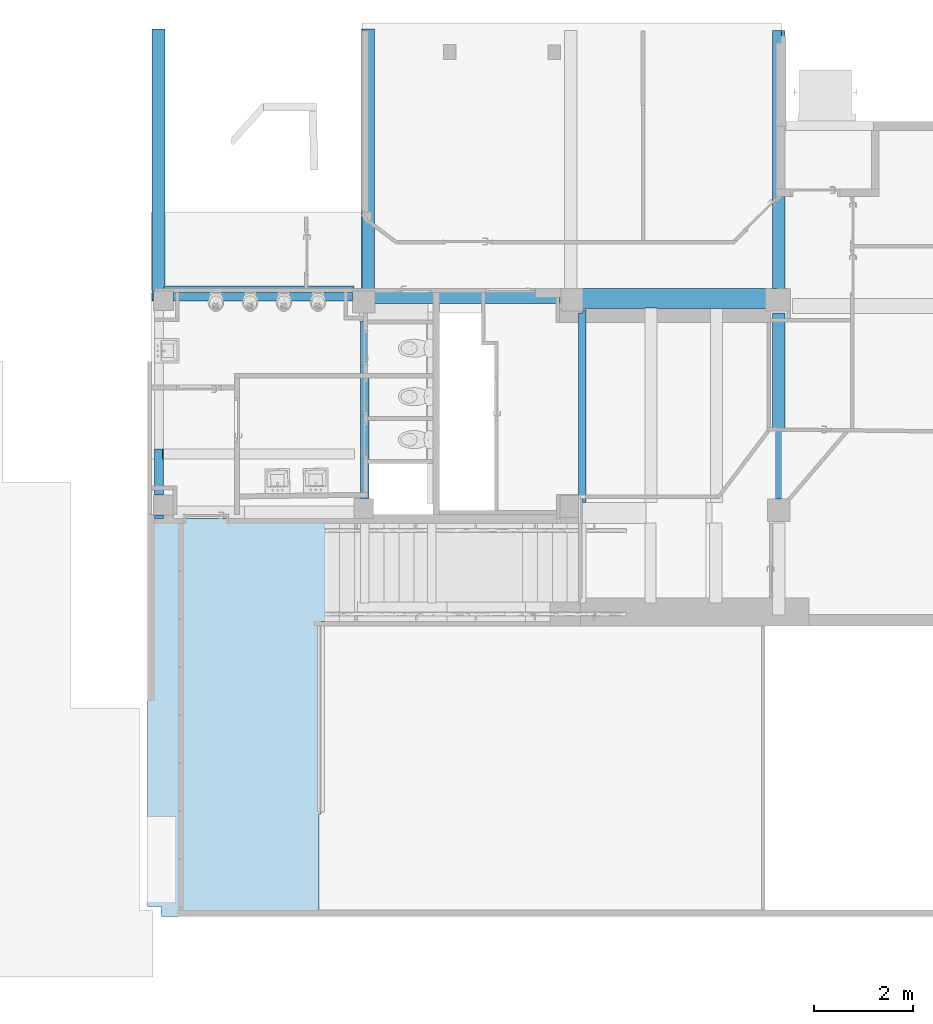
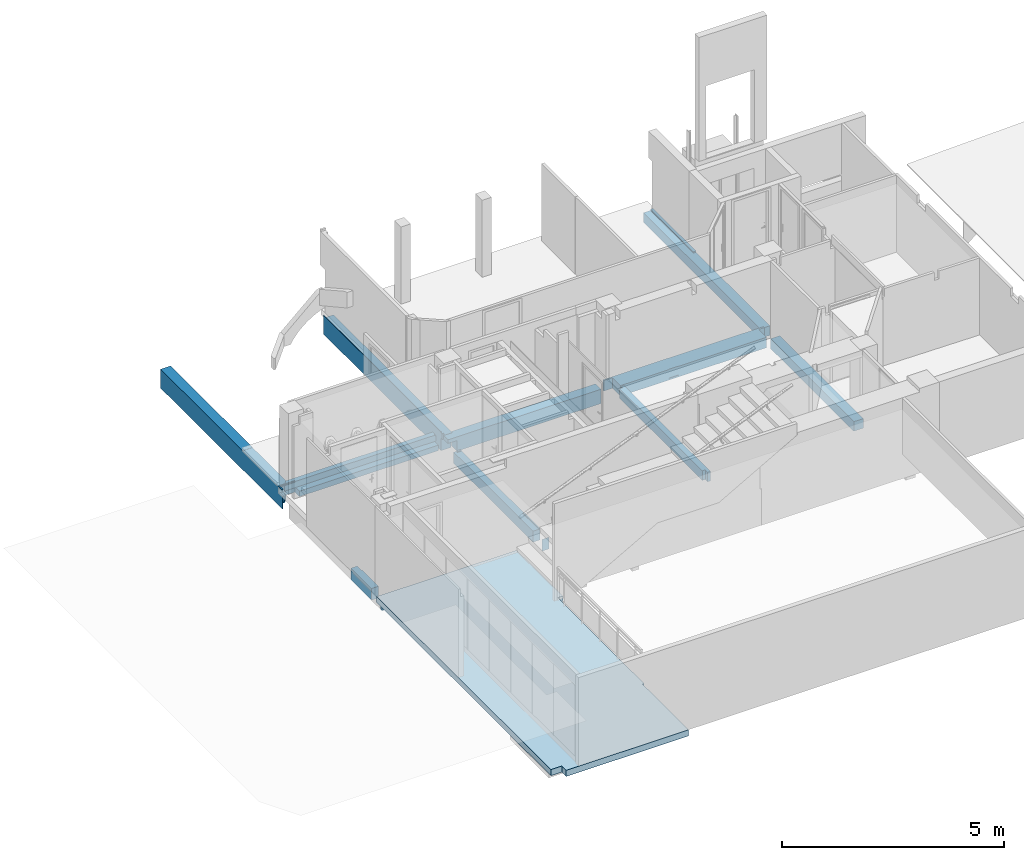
# One storey, part 10 of 32: 9 beams, 1 slab.
"""IFC4 building model written with IfcOpenShell, lengths in metres."""

from ifc_helpers import new_model, entity, si_unit, converted_unit, derived_unit, direction, frame, origin, place, context, subcontext, project, spatial, polygons, source, transform, mapped, material, layer, layer_set, type_object, type_shapes, element, save


model = new_model("IFC4")

# Units and contexts
model_context = context("Model", 3, precision=1e-05, world=origin(), true_north=direction((6.12303176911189e-17, 1.0)))
body_context = subcontext(model_context, "Body", "Model", "MODEL_VIEW")
ifc_project = project(units=[si_unit("LENGTHUNIT", "METRE"), si_unit("AREAUNIT", "SQUARE_METRE"), si_unit("VOLUMEUNIT", "CUBIC_METRE"), converted_unit("PLANEANGLEUNIT", "DEGREE", entity("IfcRatioMeasure", 0.0174532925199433), si_unit("PLANEANGLEUNIT", "RADIAN"), dimensions=[0, 0, 0, 0, 0, 0, 0]), si_unit("MASSUNIT", "GRAM", prefix="KILO"), derived_unit("MASSDENSITYUNIT", [(si_unit("MASSUNIT", "GRAM", prefix="KILO"), 1), (si_unit("LENGTHUNIT", "METRE"), -3)]), derived_unit("MOMENTOFINERTIAUNIT", [(si_unit("LENGTHUNIT", "METRE"), 4)]), si_unit("TIMEUNIT", "SECOND"), si_unit("FREQUENCYUNIT", "HERTZ"), si_unit("THERMODYNAMICTEMPERATUREUNIT", "DEGREE_CELSIUS"), derived_unit("THERMALTRANSMITTANCEUNIT", [(si_unit("MASSUNIT", "GRAM", prefix="KILO"), 1), (si_unit("THERMODYNAMICTEMPERATUREUNIT", "KELVIN"), -1), (si_unit("TIMEUNIT", "SECOND"), -3)]), derived_unit("VOLUMETRICFLOWRATEUNIT", [(si_unit("LENGTHUNIT", "METRE"), 3), (si_unit("TIMEUNIT", "SECOND"), -1)]), si_unit("ELECTRICCURRENTUNIT", "AMPERE"), si_unit("ELECTRICVOLTAGEUNIT", "VOLT"), si_unit("POWERUNIT", "WATT"), si_unit("FORCEUNIT", "NEWTON", prefix="KILO"), si_unit("ILLUMINANCEUNIT", "LUX"), si_unit("LUMINOUSFLUXUNIT", "LUMEN"), si_unit("LUMINOUSINTENSITYUNIT", "CANDELA"), derived_unit("USERDEFINED", [(si_unit("MASSUNIT", "GRAM", prefix="KILO"), -1), (si_unit("LENGTHUNIT", "METRE"), -2), (si_unit("TIMEUNIT", "SECOND"), 3), (si_unit("LUMINOUSFLUXUNIT", "LUMEN"), 1)]), derived_unit("LINEARVELOCITYUNIT", [(si_unit("LENGTHUNIT", "METRE"), 1), (si_unit("TIMEUNIT", "SECOND"), -1)]), si_unit("PRESSUREUNIT", "PASCAL"), derived_unit("USERDEFINED", [(si_unit("LENGTHUNIT", "METRE"), -2), (si_unit("MASSUNIT", "GRAM", prefix="KILO"), 1), (si_unit("TIMEUNIT", "SECOND"), -2)]), derived_unit("LINEARFORCEUNIT", [(si_unit("MASSUNIT", "GRAM", prefix="KILO"), 1), (si_unit("LENGTHUNIT", "METRE"), 1), (si_unit("TIMEUNIT", "SECOND"), -2), (si_unit("LENGTHUNIT", "METRE"), -1)]), derived_unit("PLANARFORCEUNIT", [(si_unit("MASSUNIT", "GRAM", prefix="KILO"), 1), (si_unit("LENGTHUNIT", "METRE"), 1), (si_unit("TIMEUNIT", "SECOND"), -2), (si_unit("LENGTHUNIT", "METRE"), -2)])], contexts=[model_context])

# Site, building, storey
site_placement = place(None, origin())
site = spatial("IfcSite", under=ifc_project, at=site_placement, Name="Default", CompositionType="ELEMENT")
building_placement = place(site_placement, origin())
building = spatial("IfcBuilding", under=site, at=building_placement, Name="HOTEL CONSULAIRE BOULOGNE SUR MER", CompositionType="ELEMENT")
storey_placement = place(building_placement, frame((0.0, 0.0, -2.70343668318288)))
storey = spatial("IfcBuildingStorey", under=building, at=storey_placement, Name="SS1", CompositionType="ELEMENT", Elevation=-2.70343668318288)

# Beams
ifc_material_1 = material(Name="Béton - Béton coulé sur place", Category="Béton")
beam_type_1 = type_object("IfcBeamType", Name="Poutre rectangulaire - Béton:260X520", PredefinedType="BEAM", material=ifc_material_1)
shared_shape_1 = source(origin(), body_context, "Body", "Tessellation", [
    polygons([(0.26, 0.0603236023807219, 0.0), (0.26, 5.35090924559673, 0.0), (0.26, 5.35090924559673, 0.443990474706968), (0.26, 0.0513236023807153, 0.443990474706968), (0.26, 0.0, 0.443990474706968), (0.26, 0.0, 0.345000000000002), (0.26, 0.0513236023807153, 0.345000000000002), (0.26, 0.0603236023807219, 0.345000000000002), (2.70716782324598e-16, 0.0603236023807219, 0.0), (2.70716782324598e-16, 5.35090924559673, 0.0), (2.70716782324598e-16, 0.0603236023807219, 0.345000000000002), (2.70716782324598e-16, 0.0, 0.345000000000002), (2.70716782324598e-16, 0.0, 0.495000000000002), (2.70716782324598e-16, 0.0603236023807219, 0.495000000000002), (2.70716782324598e-16, 0.0603236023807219, 0.52), (2.70716782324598e-16, 0.0606103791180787, 0.52), (2.70716782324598e-16, 0.0606103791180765, 0.513990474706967), (2.70716782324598e-16, 1.65568960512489, 0.513990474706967), (2.70716782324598e-16, 1.65568960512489, 0.52), (2.70716782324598e-16, 5.35090924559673, 0.52), (0.0123997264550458, 1.65568960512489, 0.52), (0.0123997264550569, 5.35090924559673, 0.52), (0.0303000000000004, 0.0, 0.345000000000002), (0.0430000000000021, 0.0, 0.443990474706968), (0.0430000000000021, 0.0, 0.45), (0.0430000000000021, 0.0, 0.495000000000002), (0.0123997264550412, 0.0603236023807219, 0.495000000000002), (0.012399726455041, 0.0603236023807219, 0.52), (0.0123997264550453, 1.65568960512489, 0.513990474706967), (0.012399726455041, 0.0606103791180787, 0.513990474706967), (0.0123997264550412, 0.0606103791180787, 0.52), (0.012399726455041, 0.0206103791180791, 0.443990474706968), (0.0430000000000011, 0.0206103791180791, 0.443990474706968), (0.0123997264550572, 5.35090924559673, 0.443990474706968), (0.012399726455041, 0.0206103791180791, 0.495000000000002), (0.0430000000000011, 0.0206103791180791, 0.495000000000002)], [[[3, 4, 5, 6, 7, 8, 1, 2]], [[27, 35, 32, 34, 22, 21, 29, 30, 31, 28]], [[25, 24, 33, 36, 26]], [[10, 2, 1, 9]], [[23, 12, 11, 8, 7, 6]], [[18, 19, 20, 10, 9, 11, 12, 13, 14, 15, 16, 17]], [[22, 20, 19, 21]], [[17, 30, 29, 18]], [[4, 3, 34, 32, 33, 24, 5]], [[31, 16, 15, 28]], [[14, 13, 26, 36, 35, 27]], [[9, 1, 8, 11]], [[26, 13, 12, 23, 6, 5, 24, 25]], [[27, 28, 15, 14]], [[21, 19, 18, 29]], [[16, 31, 30, 17]], [[2, 10, 20, 22, 34, 3]], [[35, 36, 33, 32]]], closed=True),
])
type_shapes(beam_type_1, [shared_shape_1])
beam_1_placement = place(storey_placement, frame((-1.27182322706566, -15.4512334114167, -0.300000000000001)))
element("IfcBeam", 1, at=beam_1_placement, inside=storey, type_object=beam_type_1, material=ifc_material_1, Name="Poutre rectangulaire - Béton:260X520", ObjectType="Poutre rectangulaire - Béton:260X520", PredefinedType="BEAM", context=body_context, shape_type="MappedRepresentation", body=[
    mapped(shared_shape_1, transform((0.0, 0.0, 0.0), scale=1.0)),
])
beam_type_2 = type_object("IfcBeamType", Name="Poutre rectangulaire - Béton:250X400", PredefinedType="BEAM", material=ifc_material_1)
shared_shape_2 = source(origin(), body_context, "Body", "Tessellation", [
    polygons([(2.70716782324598e-16, 1.29944055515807e-14, 0.295000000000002), (2.70716782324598e-16, 1.29944055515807e-14, 0.4), (8.12150346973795e-16, 0.198676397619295, 0.4), (8.12150346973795e-16, 0.198676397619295, 0.295000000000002), (3.9877, 0.0, 0.0), (3.9877, 0.0, 0.393990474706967), (1.54379141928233, 6.49720277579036e-15, 0.393990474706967), (1.41379141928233, 8.66293703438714e-15, 0.393990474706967), (1.31206429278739, 8.66293703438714e-15, 0.393990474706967), (0.012700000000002, 1.29944055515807e-14, 0.393990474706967), (0.012700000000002, 1.29944055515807e-14, 0.4), (0.0126999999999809, 1.29944055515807e-14, 0.295000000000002), (0.2377, 1.08286712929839e-14, 0.295000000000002), (0.2377, 1.08286712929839e-14, 0.0), (3.9877, 0.249999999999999, 0.0), (3.9877, 0.150000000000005, 0.0), (0.2377, 0.150000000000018, 0.0), (0.237699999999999, 0.250000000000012, 0.0), (3.9877, 0.249999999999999, 0.394000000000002), (0.2377, 0.25000000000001, 0.295000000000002), (0.2297, 0.25000000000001, 0.295000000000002), (0.2297, 0.25000000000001, 0.393990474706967), (0.0127000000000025, 0.198676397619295, 0.4), (0.229700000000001, 0.198676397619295, 0.295000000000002), (0.229700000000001, 0.198676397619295, 0.393990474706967), (0.0127000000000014, 0.198676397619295, 0.393990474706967)], [[[4, 1, 2, 3]], [[17, 14, 13, 20, 18]], [[25, 22, 21, 24]], [[14, 5, 6, 7, 8, 9, 10, 11, 2, 1, 12, 13]], [[16, 5, 14, 17, 18, 15]], [[20, 13, 12, 1, 4, 24, 21]], [[19, 15, 18, 20, 21, 22]], [[3, 23, 26, 25, 24, 4]], [[11, 23, 3, 2]], [[25, 26, 10, 9, 8, 7, 22]], [[16, 15, 19, 6, 5]], [[11, 10, 26, 23]], [[19, 22, 7]], [[19, 7, 6]]], closed=True),
])
type_shapes(beam_type_2, [shared_shape_2])
beam_2_placement = place(storey_placement, frame((-1.24152322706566, -15.649909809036, -0.250000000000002)))
element("IfcBeam", 2, at=beam_2_placement, inside=storey, type_object=beam_type_2, material=ifc_material_1, Name="Poutre rectangulaire - Béton:250X400", ObjectType="Poutre rectangulaire - Béton:250X400", PredefinedType="BEAM", context=body_context, shape_type="MappedRepresentation", body=[
    mapped(shared_shape_2, transform((0.0, 0.0, 0.0), scale=1.0)),
])
beam_type_3 = type_object("IfcBeamType", Name="Poutre rectangulaire - Béton:180X320", PredefinedType="BEAM", material=ifc_material_1)
shared_shape_3 = source(origin(), body_context, "Body", "Tessellation", [
    polygons([(0.180000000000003, 1.40734643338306, 0.0), (3.24860138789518e-15, 1.40734643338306, 0.0), (3.24860138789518e-15, 1.40734643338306, 0.32), (0.16738267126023, 1.40734643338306, 0.32), (0.16738267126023, 1.40734643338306, 0.19), (0.180000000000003, 1.40734643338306, 0.19), (0.180000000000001, 0.475999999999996, 0.0), (0.180000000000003, 1.20769286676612, 0.19), (0.180000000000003, 1.20769286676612, 0.32), (0.180000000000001, 0.475999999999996, 0.32), (0.180000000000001, 0.475999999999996, 0.0100000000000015), (1.08286712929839e-15, 0.475999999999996, 0.0), (1.08286712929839e-15, 0.475999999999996, 0.0100000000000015), (1.08286712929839e-15, 0.475999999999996, 0.32), (3.24860138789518e-15, 1.20769286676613, 0.32), (0.167382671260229, 1.20769286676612, 0.32), (0.167382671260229, 1.20769286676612, 0.19)], [[[5, 6, 1, 2, 3, 4]], [[16, 9, 8, 17]], [[9, 10, 11, 7, 1, 6, 8]], [[4, 16, 17, 5]], [[2, 1, 7, 12]], [[15, 3, 2, 12, 13, 14]], [[4, 3, 15, 14, 10, 9, 16]], [[17, 8, 6, 5]], [[11, 10, 14, 13, 12, 7]]], closed=True),
    polygons([(0.18, -4.33146851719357e-15, 0.0), (0.18, -4.33146851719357e-15, 0.32), (0.0, -4.33146851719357e-15, 0.32), (0.0, -4.33146851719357e-15, 0.270000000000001), (0.0, -4.33146851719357e-15, 0.0), (0.18, 0.0760000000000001, 0.0), (0.0, 0.0760000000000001, 0.0), (0.0, 0.0760000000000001, 0.0100000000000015), (1.08286712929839e-15, 0.0760000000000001, 0.32), (0.18, 0.0760000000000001, 0.32), (0.18, 0.0760000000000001, 0.0100000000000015)], [[[1, 2, 3, 4, 5]], [[8, 9, 10, 11, 6, 7]], [[11, 10, 2, 1, 6]], [[7, 6, 1, 5]], [[8, 7, 5, 4, 3, 9]], [[2, 10, 9, 3]]], closed=True),
])
type_shapes(beam_type_3, [shared_shape_3])
beam_3_placement = place(storey_placement, frame((-5.46198856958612, -19.9982313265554, -0.440000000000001)))
element("IfcBeam", 3, at=beam_3_placement, inside=storey, type_object=beam_type_3, material=ifc_material_1, Name="Poutre rectangulaire - Béton:180X320", ObjectType="Poutre rectangulaire - Béton:180X320", PredefinedType="BEAM", context=body_context, shape_type="MappedRepresentation", body=[
    mapped(shared_shape_3, transform((0.0, 0.0, 0.0), scale=1.0)),
])
beam_type_4 = type_object("IfcBeamType", Name="Poutre rectangulaire - Béton:400X360", PredefinedType="BEAM", material=ifc_material_1)
shared_shape_4 = source(origin(), body_context, "Body", "Tessellation", [
    polygons([(4.1707, 0.354000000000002, 0.0), (4.1707, 0.4, 0.0), (4.1707, 0.4, 0.0240000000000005), (4.1707, 0.4, 0.287990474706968), (4.1707, 0.354000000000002, 0.288000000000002), (4.1707, 0.354000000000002, 0.0240000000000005), (5.41433564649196e-16, 0.400000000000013, 0.0), (5.41433564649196e-16, 0.357000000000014, 0.0), (5.41433564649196e-16, 0.357000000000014, 0.0240000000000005), (5.41433564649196e-16, 0.357000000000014, 0.287990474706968), (5.41433564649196e-16, 0.400000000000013, 0.287990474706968), (5.41433564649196e-16, 0.400000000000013, 0.0240000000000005), (1.73534512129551, 6.49720277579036e-15, 0.0440000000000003), (1.48534512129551, 8.66293703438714e-15, 0.0440000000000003), (1.48534512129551, 8.66293703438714e-15, 0.287990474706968), (0.286559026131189, 1.29944055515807e-14, 0.287990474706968), (0.224680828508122, 1.29944055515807e-14, 0.288000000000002), (0.224680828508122, 1.29944055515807e-14, 0.0), (0.286559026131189, 1.29944055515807e-14, 0.0), (3.88088784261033, 0.0, 0.0), (4.02221241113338, 0.0, 0.0), (4.02221241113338, 0.0, 0.287990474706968), (3.88088784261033, 0.0, 0.287990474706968), (3.06134512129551, 4.33146851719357e-15, 0.287990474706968), (2.81134512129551, 4.33146851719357e-15, 0.287990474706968), (1.73534512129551, 6.49720277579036e-15, 0.287990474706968), (0.156559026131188, 0.400000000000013, 0.0), (0.286559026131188, 0.400000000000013, 0.0), (3.87570346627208, 0.4, 0.0), (4.15572698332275, 0.4, 0.0), (4.15632318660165, 0.354000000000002, 0.0), (4.02221241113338, 0.354000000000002, 0.0), (0.224680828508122, 0.357000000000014, 0.0), (0.156559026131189, 0.357000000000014, 0.0), (0.113942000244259, 0.400000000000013, 0.287990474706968), (0.156559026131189, 0.400000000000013, 0.287990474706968), (0.28655902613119, 0.400000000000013, 0.287990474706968), (3.87570346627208, 0.4, 0.287990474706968), (4.06894200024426, 0.4, 0.287990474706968), (1.48534512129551, 0.0127000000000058, 0.0440000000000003), (1.73534512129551, 0.0127000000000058, 0.0440000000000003), (1.73534512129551, 0.0127000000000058, 0.287990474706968), (1.48534512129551, 0.0127000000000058, 0.287990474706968), (0.224680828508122, 0.357000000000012, 0.288000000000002), (4.02221241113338, 0.354000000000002, 0.287990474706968)], [[[5, 6, 1, 2, 3, 4]], [[15, 14, 40, 43]], [[21, 32, 45, 22]], [[7, 8, 9, 10, 11, 12]], [[26, 42, 41, 13]], [[33, 18, 17, 44]], [[20, 21, 22, 23, 24, 25, 26, 13, 14, 15, 16, 17, 18, 19]], [[40, 41, 42, 43]], [[34, 33, 44, 10, 9, 8]], [[6, 5, 45, 32, 31, 1]], [[32, 21, 20, 19, 18, 33, 34, 8, 7, 27, 28, 29, 30, 2, 1, 31]], [[3, 2, 30, 29, 28, 27, 7, 12, 11, 35, 36, 37, 38, 39, 4]], [[13, 41, 40, 14]], [[38, 37, 16, 15, 43, 42, 26, 25, 24, 23, 22, 45, 39]], [[10, 35, 11]], [[5, 4, 39]], [[37, 44, 17, 16]], [[35, 10, 44]], [[37, 36, 35, 44]], [[39, 45, 5]]], closed=True),
])
type_shapes(beam_type_4, [shared_shape_4])
beam_4_placement = place(storey_placement, frame((2.97149594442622, -15.747909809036, -0.144000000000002)))
element("IfcBeam", 4, at=beam_4_placement, inside=storey, type_object=beam_type_4, material=ifc_material_1, Name="Poutre rectangulaire - Béton:400X360", ObjectType="Poutre rectangulaire - Béton:400X360", PredefinedType="BEAM", context=body_context, shape_type="MappedRepresentation", body=[
    mapped(shared_shape_4, transform((0.0, 0.0, 0.0), scale=1.0)),
])
beam_type_5 = type_object("IfcBeamType", Name="Poutre rectangulaire - Béton:250X300", PredefinedType="BEAM", material=ifc_material_1)
shared_shape_5 = source(origin(), body_context, "Body", "Tessellation", [
    polygons([(0.249999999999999, 9.48228303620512, 0.3), (0.249999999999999, 9.48228303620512, 0.0), (0.0, 9.48228303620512, 0.0), (0.0, 9.48228303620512, 0.263990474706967), (0.178542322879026, 9.48228303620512, 0.263990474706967), (0.178542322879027, 9.48228303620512, 0.3), (0.249999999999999, 9.36987585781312, 0.3), (0.249999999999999, 7.54340871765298, 0.3), (0.249999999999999, 7.54340871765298, 0.270000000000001), (0.249999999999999, 7.54340871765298, 0.263990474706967), (0.249999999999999, 5.93529021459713, 0.263990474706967), (0.249999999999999, 5.85529021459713, 0.263990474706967), (0.249999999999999, 4.21029021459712, 0.264000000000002), (0.249999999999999, 4.21029021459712, 0.0), (0.249999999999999, 5.85529021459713, 0.0), (0.249999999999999, 5.93529021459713, 0.0), (0.249999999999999, 7.3327336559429, 0.0), (0.249999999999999, 9.46987585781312, 0.0), (0.10175799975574, 4.21029021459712, 0.0), (0.10175799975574, 4.25629021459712, 0.0), (0.0867849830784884, 4.25629021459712, 0.0), (0.0, 4.25629021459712, 0.0), (0.0, 5.85529021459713, 0.0), (0.0, 5.93529021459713, 0.0), (0.0, 7.3327336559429, 0.0), (0.0, 7.4827336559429, 0.0), (0.0, 4.25629021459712, 0.263990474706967), (0.0, 5.85529021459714, 0.263990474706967), (0.0, 5.93529021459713, 0.263990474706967), (0.0, 7.3327336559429, 0.263990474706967), (0.0, 7.4827336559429, 0.263990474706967), (0.178542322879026, 9.36987585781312, 0.3), (0.178542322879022, 7.54340871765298, 0.3), (0.101757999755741, 4.25629021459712, 0.263990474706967), (0.10175799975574, 4.21029021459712, 0.264000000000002), (0.178542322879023, 7.54340871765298, 0.263990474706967)], [[[5, 6, 1, 2, 3, 4]], [[18, 2, 1, 7, 8, 9, 10, 11, 12, 13, 14, 15, 16, 17]], [[3, 2, 18, 17, 16, 15, 14, 19, 20, 21, 22, 23, 24, 25, 26]], [[31, 4, 3, 26, 25, 24, 23, 22, 27, 28, 29, 30]], [[32, 6, 5, 36, 33]], [[19, 35, 34, 20]], [[1, 6, 32, 33, 8, 7]], [[11, 10, 36, 5, 4, 31, 30, 29, 28, 27, 34, 12]], [[21, 20, 34, 27, 22]], [[19, 14, 13, 35]], [[9, 8, 33, 36, 10]], [[34, 13, 12]], [[35, 13, 34]]], closed=True),
    polygons([(0.249999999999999, 3.76029021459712, 0.264000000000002), (0.249999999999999, 3.76029021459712, 0.0), (0.0932136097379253, 3.76029021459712, 0.0), (0.0, 3.76029021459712, 0.0), (0.0, 3.76029021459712, 0.263990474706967), (0.249999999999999, 4.33146851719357e-15, 0.0), (0.141950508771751, 4.33146851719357e-15, 0.0), (0.0, 0.0, 0.0), (0.0, 4.33146851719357e-15, 0.263990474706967), (0.249999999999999, 4.33146851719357e-15, 0.263990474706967)], [[[3, 4, 5, 1, 2]], [[3, 2, 6, 7, 8, 4]], [[5, 4, 8, 9]], [[7, 6, 10, 9, 8]], [[2, 1, 10, 6]], [[9, 1, 5]], [[1, 9, 10]]], closed=True),
])
type_shapes(beam_type_5, [shared_shape_5])
beam_5_placement = place(storey_placement, frame((7.04043794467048, -19.6042000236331, -0.120000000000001)))
element("IfcBeam", 5, at=beam_5_placement, inside=storey, type_object=beam_type_5, material=ifc_material_1, Name="Poutre rectangulaire - Béton:250X300", ObjectType="Poutre rectangulaire - Béton:250X300", PredefinedType="BEAM", context=body_context, shape_type="MappedRepresentation", body=[
    mapped(shared_shape_5, transform((0.0, 0.0, 0.0), scale=1.0)),
])
beam_type_6 = type_object("IfcBeamType", Name="Poutre rectangulaire - Béton:150X320", PredefinedType="BEAM", material=ifc_material_1)
shared_shape_6 = source(origin(), body_context, "Body", "Tessellation", [
    polygons([(0.150000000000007, 3.8947, 5.41433564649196e-16), (0.078335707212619, 3.8947, 0.0), (0.078335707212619, 3.8947, 0.263990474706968), (0.150000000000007, 3.8947, 0.263990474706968), (0.078335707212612, 0.0, 5.41433564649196e-16), (0.150000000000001, 0.0, 5.41433564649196e-16), (0.150000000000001, 0.0, 0.263990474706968), (0.078335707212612, 0.0, 0.264000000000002), (0.078335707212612, 0.109678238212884, 5.41433564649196e-16), (5.41433564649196e-16, 0.109678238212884, 5.41433564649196e-16), (7.03863634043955e-15, 3.83667823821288, 5.41433564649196e-16), (0.078335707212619, 3.83667823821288, 5.41433564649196e-16), (0.0, 0.109678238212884, 0.263990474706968), (7.03863634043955e-15, 3.83667823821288, 0.264000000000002), (0.078335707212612, 0.109678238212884, 0.264000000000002), (0.078335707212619, 3.83667823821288, 0.263990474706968)], [[[3, 4, 1, 2]], [[12, 11, 14, 16]], [[5, 6, 7, 8]], [[10, 9, 15, 13]], [[1, 4, 7, 6]], [[2, 1, 6, 5, 9, 10, 11, 12]], [[14, 11, 10, 13]], [[9, 5, 8, 15]], [[2, 12, 16, 3]], [[16, 4, 3]], [[15, 16, 14]], [[16, 15, 4]], [[15, 8, 7, 4]], [[14, 13, 15]]], closed=True),
])
type_shapes(beam_type_6, [shared_shape_6])
beam_6_placement = place(storey_placement, frame((3.11784106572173, -19.6775880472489, -0.120000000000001)))
element("IfcBeam", 6, at=beam_6_placement, inside=storey, type_object=beam_type_6, material=ifc_material_1, Name="Poutre rectangulaire - Béton:150X320", ObjectType="Poutre rectangulaire - Béton:150X320", PredefinedType="BEAM", context=body_context, shape_type="MappedRepresentation", body=[
    mapped(shared_shape_6, transform((0.0, 0.0, 0.0), scale=1.0)),
])
beam_type_7 = type_object("IfcBeamType", Name="Poutre rectangulaire - Béton:180X320", PredefinedType="BEAM", material=ifc_material_1)
shared_shape_7 = source(origin(), body_context, "Body", "Tessellation", [
    polygons([(0.180000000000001, 0.40532151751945, 0.32), (0.180000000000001, 0.40532151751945, 0.0), (0.180000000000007, 3.98832151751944, 0.0), (0.180000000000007, 3.98832151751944, 0.32), (0.180000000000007, 3.93999791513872, 0.32), (0.180000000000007, 3.93999791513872, 0.305000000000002), (0.180000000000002, 1.11532151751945, 0.305000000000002), (0.180000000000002, 1.11532151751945, 0.32), (8.12150346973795e-16, 0.40532151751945, 0.0), (7.30935312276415e-15, 3.98832151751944, 0.0), (8.12150346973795e-16, 0.40532151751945, 0.305000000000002), (7.30935312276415e-15, 3.98832151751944, 0.305000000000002), (0.068335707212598, 3.98832151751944, 0.32), (0.068335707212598, 3.93999791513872, 0.32), (0.148335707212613, 0.40532151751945, 0.32), (0.148335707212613, 0.40532151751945, 0.305000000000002), (0.068335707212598, 3.98832151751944, 0.305000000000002), (0.148335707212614, 1.11532151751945, 0.305000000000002), (0.068335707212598, 3.93999791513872, 0.305000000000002), (0.148335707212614, 1.11532151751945, 0.32)], [[[4, 5, 6, 7, 8, 1, 2, 3]], [[10, 3, 2, 9]], [[12, 10, 9, 11]], [[14, 13, 17, 19]], [[15, 20, 18, 16]], [[4, 13, 14, 5]], [[16, 18, 7, 6, 19, 17, 12, 11]], [[8, 20, 15, 1]], [[1, 15, 16, 11, 9, 2]], [[14, 19, 6, 5]], [[17, 13, 4, 3, 10, 12]], [[8, 7, 18, 20]]], closed=True),
    polygons([(0.18, 0.0, 0.0), (0.18, 0.0, 0.32), (2.70716782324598e-16, 0.0, 0.32), (0.0, 0.0, 0.0), (0.18, 0.00532151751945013, 0.32), (0.18, 0.00532151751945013, 0.0), (2.70716782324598e-16, 0.00532151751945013, 0.0), (2.70716782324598e-16, 0.00532151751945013, 0.14), (0.0, 0.00532151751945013, 0.32)], [[[1, 2, 3, 4]], [[8, 9, 5, 6, 7]], [[6, 5, 2, 1]], [[7, 6, 1, 4]], [[8, 7, 4, 3, 9]], [[5, 9, 3, 2]]], closed=True),
])
type_shapes(beam_type_7, [shared_shape_7])
beam_7_placement = place(storey_placement, frame((-1.29715893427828, -19.9982313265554, -0.260000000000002)))
element("IfcBeam", 7, at=beam_7_placement, inside=storey, type_object=beam_type_7, material=ifc_material_1, Name="Poutre rectangulaire - Béton:180X320", ObjectType="Poutre rectangulaire - Béton:180X320", PredefinedType="BEAM", context=body_context, shape_type="MappedRepresentation", body=[
    mapped(shared_shape_7, transform((0.0, 0.0, 0.0), scale=1.0)),
])
beam_type_8 = type_object("IfcBeamType", Name="Poutre rectangulaire - Béton:300X320", PredefinedType="BEAM", material=ifc_material_1)
shared_shape_8 = source(origin(), body_context, "Body", "Tessellation", [
    polygons([(4.05816534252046, 0.0, 0.0), (4.05816534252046, 0.0, 0.15), (1.76882963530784, 6.49720277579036e-15, 0.15), (1.61882963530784, 8.66293703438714e-15, 0.15), (0.436480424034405, 1.08286712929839e-14, 0.15), (0.436480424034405, 1.08286712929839e-14, 0.0), (1.61882963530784, 8.66293703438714e-15, 0.0), (1.76882963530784, 6.49720277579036e-15, 0.0), (0.259999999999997, 0.30000000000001, 0.0), (1.61882963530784, 0.300000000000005, 0.0), (1.76882963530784, 0.300000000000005, 0.0), (4.08316534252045, 0.299999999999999, 0.0), (4.08316534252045, 0.208628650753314, 0.0), (4.05816534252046, 0.208628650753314, 0.0), (0.436480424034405, 0.20427217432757, 0.0), (0.177035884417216, 0.20427217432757, 0.0), (0.259999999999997, 0.300000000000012, 0.32), (4.08316534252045, 0.299999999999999, 0.32), (0.177035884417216, 0.20427217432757, 0.32), (0.436480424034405, 0.20427217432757, 0.32), (0.436480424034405, 0.168915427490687, 0.32), (4.05816534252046, 0.168915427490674, 0.32), (4.05816534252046, 0.208628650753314, 0.32), (4.08316534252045, 0.208628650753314, 0.32), (4.08316534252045, 0.208628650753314, 0.3), (4.08316534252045, 0.168915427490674, 0.3), (4.08316534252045, 0.168915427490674, 0.15), (4.08316534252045, 0.208628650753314, 0.15), (4.05816534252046, 0.208628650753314, 0.3), (4.05816534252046, 0.168915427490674, 0.3), (0.436480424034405, 0.20427217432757, 0.3), (0.436480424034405, 0.168915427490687, 0.3), (0.177035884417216, 0.20427217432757, 0.3), (4.05816534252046, 0.208628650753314, 0.15), (4.05816534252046, 0.168915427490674, 0.15), (0.436480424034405, 0.20427217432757, 0.15), (0.436480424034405, 0.168915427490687, 0.15), (0.177035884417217, 0.20427217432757, 0.15), (0.146393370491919, 0.168915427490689, 0.15), (0.14639337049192, 0.168915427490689, 0.3)], [[[2, 3, 4, 5, 6, 7, 8, 1]], [[25, 24, 23, 29]], [[31, 20, 19, 33]], [[14, 13, 28, 34]], [[15, 36, 38, 16]], [[40, 39, 37, 35, 27, 26, 30, 22, 21, 32]], [[1, 8, 7, 6, 15, 16, 9, 10, 11, 12, 13, 14]], [[35, 34, 28, 27]], [[38, 36, 37, 39]], [[18, 12, 11, 10, 9, 17]], [[18, 17, 19, 20, 21, 22, 23, 24]], [[26, 25, 29, 30]], [[32, 31, 33, 40]], [[37, 5, 4, 3, 2, 35]], [[25, 26, 27, 28, 13, 12, 18, 24]], [[30, 29, 23, 22]], [[1, 14, 34, 35, 2]], [[31, 32, 21, 20]], [[15, 6, 5, 37, 36]], [[39, 40, 33, 19, 17, 9, 16, 38]]], closed=True),
    polygons([(0.0364804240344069, 0.0420927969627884, 0.15), (0.0364804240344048, 0.0420927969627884, 0.0), (1.08286712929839e-15, 1.29944055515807e-14, 0.0), (3.24860138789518e-15, 1.51601398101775e-14, 0.15), (0.0364804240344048, 1.29944055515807e-14, 0.15), (0.0364804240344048, 1.29944055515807e-14, 0.0)], [[[2, 3, 4, 1]], [[5, 1, 4]], [[2, 1, 5, 6]], [[6, 3, 2]], [[6, 5, 4, 3]]], closed=True),
])
type_shapes(beam_type_8, [shared_shape_8])
beam_8_placement = place(storey_placement, frame((-5.51198856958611, -15.5995384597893, -0.105)))
element("IfcBeam", 8, at=beam_8_placement, inside=storey, type_object=beam_type_8, material=ifc_material_1, Name="Poutre rectangulaire - Béton:300X320", ObjectType="Poutre rectangulaire - Béton:300X320", PredefinedType="BEAM", context=body_context, shape_type="MappedRepresentation", body=[
    mapped(shared_shape_8, transform((0.0, 0.0, 0.0), scale=1.0)),
])
beam_type_9 = type_object("IfcBeamType", Name="Poutre rectangulaire - Béton:260X520", PredefinedType="BEAM", material=ifc_material_1)
shared_shape_9 = source(origin(), body_context, "Body", "Tessellation", [
    polygons([(0.26, 0.300000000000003, 0.0), (0.26, 1.7012053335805, 0.0), (0.26, 5.49921429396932, 0.0), (0.26, 5.49921429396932, 0.52), (0.26, 1.80399465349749, 0.52), (0.26, 1.80399465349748, 0.513990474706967), (0.26, 0.300000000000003, 0.513990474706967), (0.26, 0.300000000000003, 0.195000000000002), (0.177035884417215, 0.204272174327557, 0.0), (0.0499999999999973, 0.204272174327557, 0.0), (0.0364804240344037, 0.204272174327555, 0.0), (0.0364804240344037, 0.0420927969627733, 0.0), (0.0, 0.0, 0.0), (0.0, 0.204272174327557, 0.0), (0.0, 1.7012053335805, 0.0), (0.0, 5.15321429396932, 0.0), (0.0, 5.49921429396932, 0.0), (0.00800790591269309, 5.49921429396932, 0.0), (0.0, 0.0, 0.195000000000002), (0.0, 0.0, 0.345000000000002), (0.0, 0.168915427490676, 0.345000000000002), (0.0, 0.168915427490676, 0.515000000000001), (0.0, 0.0, 0.515000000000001), (0.0, 0.0, 0.52), (0.0, 0.204272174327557, 0.52), (0.0, 0.208915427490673, 0.52), (0.0, 0.208915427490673, 0.513990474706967), (0.0, 1.7012053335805, 0.513990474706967), (0.0, 1.80399465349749, 0.513990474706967), (0.0, 1.80399465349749, 0.52), (0.0, 5.15321429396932, 0.52), (0.0, 5.49921429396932, 0.52), (0.00800790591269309, 5.49921429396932, 0.52), (0.0364804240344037, 0.0420927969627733, 0.52), (0.0364804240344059, 0.0420927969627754, 0.515000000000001), (0.0364804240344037, 0.204272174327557, 0.495000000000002), (0.0364804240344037, 0.204272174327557, 0.52), (0.0364804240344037, 0.168915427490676, 0.515000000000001), (0.0364804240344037, 0.168915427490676, 0.495000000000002), (0.177035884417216, 0.204272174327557, 0.495000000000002), (0.177035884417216, 0.204272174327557, 0.515000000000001), (0.177035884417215, 0.204272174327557, 0.52), (0.0499999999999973, 0.204272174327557, 0.52), (0.0364804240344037, 0.204272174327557, 0.345000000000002), (0.0364804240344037, 0.168915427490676, 0.345000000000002), (0.0364804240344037, 0.0420927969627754, 0.345000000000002), (0.0364804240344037, 0.0420927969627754, 0.195000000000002), (0.177035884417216, 0.204272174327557, 0.195000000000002), (0.177035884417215, 0.204272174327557, 0.345000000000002), (0.146393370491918, 0.168915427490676, 0.345000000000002), (0.181060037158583, 0.208915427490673, 0.513990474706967), (0.0499999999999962, 0.208915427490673, 0.52), (0.181060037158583, 0.208915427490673, 0.52), (0.146393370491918, 0.168915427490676, 0.495000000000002)], [[[4, 5, 6, 7, 8, 1, 2, 3]], [[38, 39, 36, 37, 34, 35]], [[47, 12, 11, 44, 45, 46]], [[18, 3, 2, 1, 9, 10, 11, 12, 13, 14, 15, 16, 17]], [[44, 49, 50, 45]], [[35, 23, 22, 38]], [[31, 32, 17, 16, 15, 14, 13, 19, 20, 21, 22, 23, 24, 25, 26, 27, 28, 29, 30]], [[33, 32, 31, 30, 5, 4]], [[7, 6, 29, 28, 27, 51]], [[52, 26, 25, 24, 34, 37, 43, 42, 53]], [[54, 40, 36, 39]], [[21, 20, 46, 45]], [[34, 24, 23, 35]], [[47, 46, 20, 19, 13, 12]], [[51, 53, 42, 41, 40, 54, 50, 49, 48, 9, 1, 8, 7]], [[41, 42, 43, 37, 36, 40]], [[48, 49, 44, 11, 10, 9]], [[30, 29, 6, 5]], [[39, 38, 22, 21, 45, 50, 54]], [[52, 53, 51, 27, 26]], [[18, 17, 32, 33, 4, 3]]], closed=True),
])
type_shapes(beam_type_9, [shared_shape_9])
beam_9_placement = place(storey_placement, frame((-5.51198856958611, -15.5995384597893, -0.300000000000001)))
element("IfcBeam", 9, at=beam_9_placement, inside=storey, type_object=beam_type_9, material=ifc_material_1, Name="Poutre rectangulaire - Béton:260X520", ObjectType="Poutre rectangulaire - Béton:260X520", PredefinedType="BEAM", context=body_context, shape_type="MappedRepresentation", body=[
    mapped(shared_shape_9, transform((0.0, 0.0, 0.0), scale=1.0)),
])

# Slab
ifc_material_2 = material(Name="carrelage 30x30")
ifc_layer_1 = layer(ifc_material_2, 0.02, Name="carrelage 30x30")
ifc_layer_2 = layer(ifc_material_1, 0.15, Name="Béton - Béton coulé sur place", Category="Béton")
ifc_layer_set = layer_set([ifc_layer_1, ifc_layer_2], Name="Sol:Dalle en béton -150mm + finition carrelage")
slab_type = type_object("IfcSlabType", Name="Sol:Dalle en béton -150mm + finition carrelage", PredefinedType="FLOOR", material=ifc_layer_set)
slab_placement = place(storey_placement, origin())
element("IfcSlab", 10, at=slab_placement, inside=storey, type_object=slab_type, material=ifc_layer_set, Name="Sol:Dalle en béton -150mm + finition carrelage", ObjectType="Sol:Dalle en béton -150mm + finition carrelage", PredefinedType="FLOOR", context=body_context, shape_type="Tessellation", body=[
    polygons([(-5.60198856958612, -19.9982313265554, -0.17), (-5.46198856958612, -19.9982313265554, -0.17), (-1.96092711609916, -19.9982313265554, -0.17), (-1.96092711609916, -22.0792190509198, -0.17), (-2.09270864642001, -22.0792190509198, -0.17), (-2.09270864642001, -22.1692190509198, -0.17), (-2.09270864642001, -25.934273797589, -0.17), (-2.09270864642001, -25.9707560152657, -0.17), (-2.16392711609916, -25.9707560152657, -0.17), (-2.16392711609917, -27.946273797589, -0.17), (-2.13392711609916, -27.946273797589, -0.17), (-2.13392711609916, -28.046273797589, -0.17), (-4.11427841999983, -28.046273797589, -0.17), (-4.99468938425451, -28.046273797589, -0.17), (-5.31977317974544, -28.046273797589, -0.17), (-5.31977317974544, -27.850273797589, -0.17), (-5.60198856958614, -27.850273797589, -0.17), (-5.60198856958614, -27.775273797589, -0.17), (-5.60198856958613, -25.9457560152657, -0.17), (-5.60198856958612, -20.2218053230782, -0.17), (-1.96092711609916, -19.9982313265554, 0.0), (-3.6696615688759, -19.9982313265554, 0.0), (-3.73698856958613, -19.9982313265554, 0.0), (-5.53198856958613, -19.9982313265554, 0.0), (-5.60198856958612, -19.9982313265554, 0.0), (-5.60198856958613, -23.6845842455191, 0.0), (-5.60198856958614, -27.850273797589, 0.0), (-5.31977317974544, -27.850273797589, 0.0), (-5.31977317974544, -28.046273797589, 0.0), (-2.13392711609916, -28.046273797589, 0.0), (-2.13392711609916, -25.9707560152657, 0.0), (-2.09270864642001, -25.9707560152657, 0.0), (-2.09270864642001, -22.0792190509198, 0.0), (-1.98949679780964, -22.0792190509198, 0.0), (-1.96092711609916, -22.0792190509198, 0.0), (-1.96092711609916, -20.0949143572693, 0.0), (-1.96092711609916, -19.9982313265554, -0.120000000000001), (-2.13392711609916, -27.946273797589, -0.00999999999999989), (-2.13392711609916, -25.9707560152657, -0.00999999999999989), (-2.16392711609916, -25.9707560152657, -0.00999999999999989), (-2.16392711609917, -27.946273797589, -0.00999999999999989)], [[[10, 11, 12, 13, 14, 15, 16, 17, 18, 19, 20, 1, 2, 3, 4, 5, 6, 7, 8, 9]], [[39, 38, 41, 40]], [[26, 27, 28, 29, 30, 31, 32, 33, 34, 35, 36, 21, 22, 23, 24, 25]], [[23, 22, 21, 37, 3, 2, 1, 25, 24]], [[10, 41, 38, 11]], [[36, 35, 4, 3, 37, 21]], [[12, 11, 38, 39, 31, 30]], [[8, 7, 6, 5, 33, 32]], [[9, 40, 41, 10]], [[5, 4, 35, 34, 33]], [[17, 16, 28, 27]], [[15, 14, 13, 12, 30, 29]], [[9, 8, 32, 31, 39, 40]], [[16, 15, 29, 28]], [[18, 17, 27, 26, 25, 1, 20, 19]]], closed=True),
])

save(model, "model.ifc")
